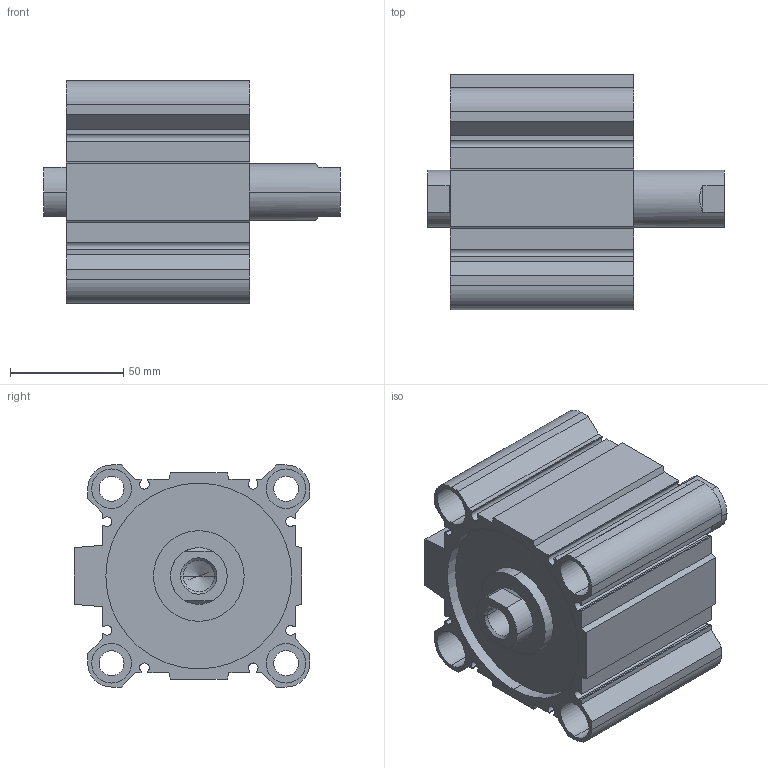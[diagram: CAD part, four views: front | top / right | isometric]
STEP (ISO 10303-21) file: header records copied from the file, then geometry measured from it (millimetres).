
FILE_DESCRIPTION (( 'STEP AP203' ), '1' );
FILE_NAME ('CCMB80-30F-P.STEP', '2020-08-05T11:49:44', ( '' ), ( '' ), 'SwSTEP 2.0', 'SolidWorks 2019', '' );
FILE_SCHEMA (( 'CONFIG_CONTROL_DESIGN' ));
Length unit declared in the file: millimetre
Products named in the file (1): CCMB80-30F-P
Bounding box: 131 x 104 x 98 mm (x, y, z)
Volume: 467620.2 mm3; surface area: 126808.5 mm2
Topology: 2 solids, 2 shells, 176 faces, 450 edges, 294 vertices
Faces by surface type: plane 90, cylinder 74, cone 12
Entity records: 5425 total; most frequent: DIRECTION 956, CARTESIAN_POINT 929, ORIENTED_EDGE 892, EDGE_CURVE 446, AXIS2_PLACEMENT_3D 337, VERTEX_POINT 294, LINE 282, VECTOR 282
